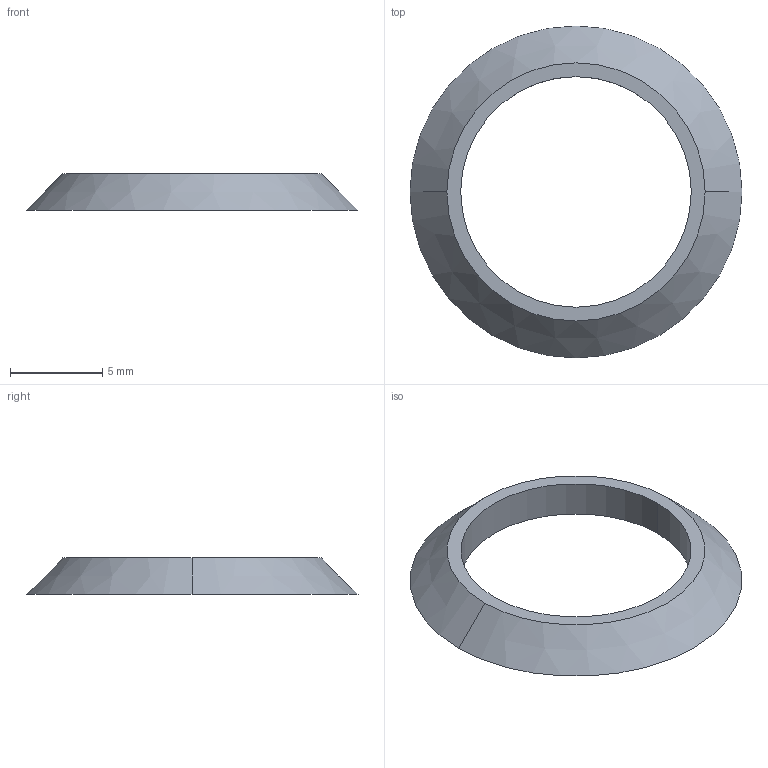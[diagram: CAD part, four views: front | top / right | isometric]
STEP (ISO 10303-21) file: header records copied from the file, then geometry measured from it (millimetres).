
FILE_DESCRIPTION (( 'STEP AP214' ), '1' );
FILE_NAME ('spacer.STEP', '2025-10-01T10:40:57', ( '' ), ( '' ), 'SwSTEP 2.0', 'SolidWorks 2018', '' );
FILE_SCHEMA (( 'AUTOMOTIVE_DESIGN' ));
Length unit declared in the file: millimetre
Products named in the file (1): spacer
Bounding box: 18 x 18 x 2 mm (x, y, z)
Volume: 158.8 mm3; surface area: 383.7 mm2
Topology: 1 solids, 1 shells, 6 faces, 12 edges, 8 vertices
Faces by surface type: cone 2, cylinder 2, plane 2
Entity records: 202 total; most frequent: DIRECTION 34, CARTESIAN_POINT 27, ORIENTED_EDGE 24, AXIS2_PLACEMENT_3D 15, EDGE_CURVE 12, VERTEX_POINT 8, EDGE_LOOP 8, CIRCLE 8
